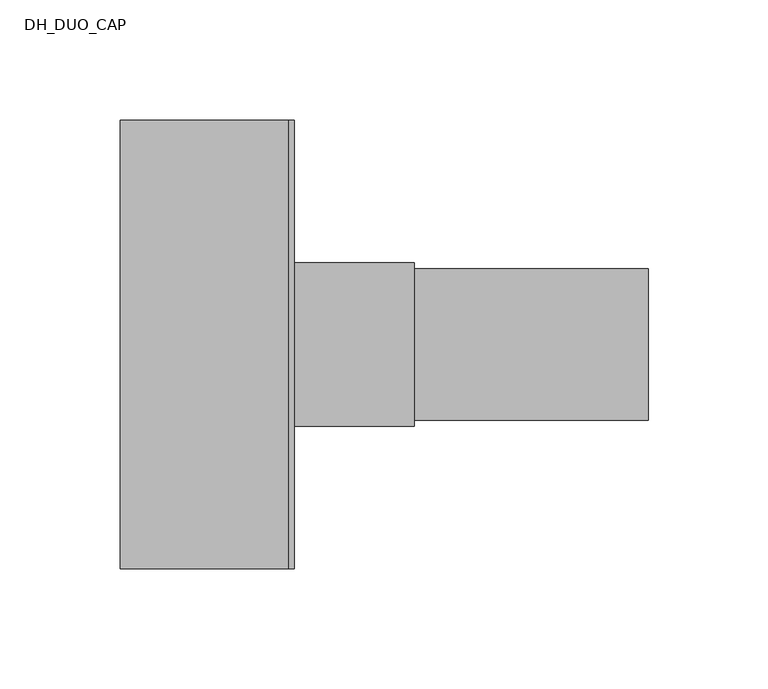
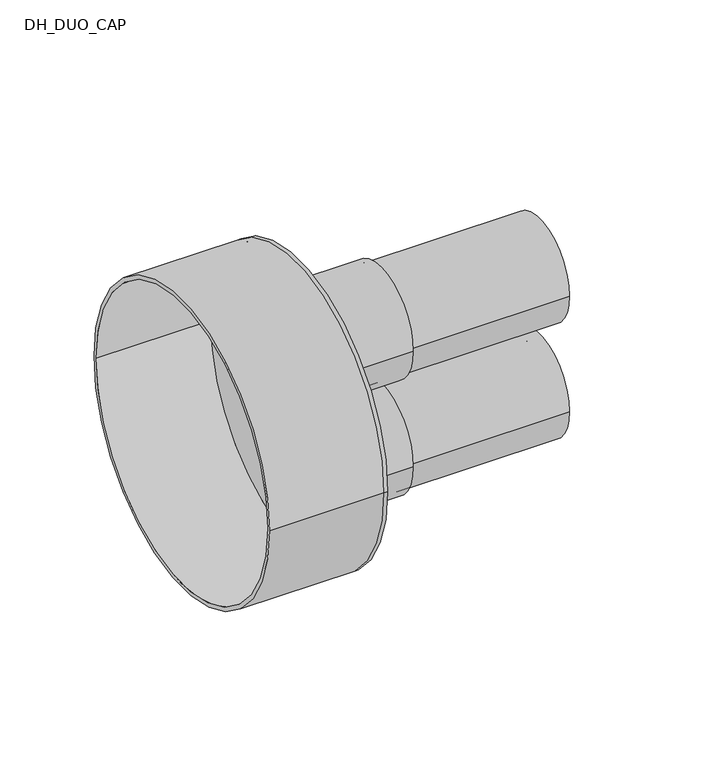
"""IFC4 building model written with IfcOpenShell, lengths in millimetres: pipe fitting geometry, DH_DUO_CAP : RAUTHERMEX DUO 7.4 Heating - Rubber Cap."""

from ifc_helpers import new_model, si_unit, point, frame, frame_2d, origin, place, context, project, spatial, polyline, circle_curve, trimmed, segment, composite_curve, outline, extrude, source, transform, mapped, element, save
from ifc_brep_helpers import plane_surface, cylinder_surface, revolved_surface, advanced_brep


def dh_duo_cap_04a83930(model_context):
    return source(origin(), model_context, "Body", "SolidModel", [
        extrude(outline(composite_curve([segment(trimmed(circle_curve(frame_2d((0.0, -37.5)), 31.5), [point((-31.5, -37.5))], [point((31.5, -37.5))], False, "CARTESIAN"), True, "CONTINUOUS"), segment(trimmed(circle_curve(frame_2d((0.0, -37.5)), 31.5), [point((31.5, -37.5))], [point((-31.5, -37.5))], False, "CARTESIAN"), True, "CONTINUOUS")], self_intersect=False), holes=[composite_curve([segment(trimmed(circle_curve(frame_2d((0.0, -37.5)), 22.9), [point((-22.9, -37.5))], [point((22.9, -37.5))], True, "CARTESIAN"), True, "CONTINUOUS"), segment(trimmed(circle_curve(frame_2d((0.0, -37.5)), 22.9), [point((22.9, -37.5))], [point((-22.9, -37.5))], True, "CARTESIAN"), True, "CONTINUOUS")], self_intersect=False)]), frame((0.0, 0.0, 0.0), z_axis=(1.0, 0.0, 0.0), x_axis=(0.0, 1.0, 0.0)), (0.0, 0.0, 1.0), 150.0),
        extrude(outline(composite_curve([segment(trimmed(circle_curve(frame_2d((0.0, 37.5)), 31.5), [point((-31.5, 37.5))], [point((31.5, 37.5))], False, "CARTESIAN"), True, "CONTINUOUS"), segment(trimmed(circle_curve(frame_2d((0.0, 37.5)), 31.5), [point((31.5, 37.5))], [point((-31.5, 37.5))], False, "CARTESIAN"), True, "CONTINUOUS")], self_intersect=False), holes=[composite_curve([segment(trimmed(circle_curve(frame_2d((0.0, 37.5)), 22.9), [point((-22.9, 37.5))], [point((22.9, 37.5))], True, "CARTESIAN"), True, "CONTINUOUS"), segment(trimmed(circle_curve(frame_2d((0.0, 37.5)), 22.9), [point((22.9, 37.5))], [point((-22.9, 37.5))], True, "CARTESIAN"), True, "CONTINUOUS")], self_intersect=False)]), frame((0.0, 0.0, 0.0), z_axis=(1.0, 0.0, 0.0), x_axis=(0.0, 1.0, 0.0)), (0.0, 0.0, 1.0), 150.0),
        advanced_brep(
        [(-70.0, -93.5, 0.0), (-70.0, 93.5, 0.0), (-70.0, -91.0, 0.0), (-70.0, 91.0, 0.0), (0.0, -91.0, 0.0), (0.0, 91.0, 0.0), (0.0, -93.5, 0.0), (0.0, 93.5, 0.0), (0.0, 31.5, 37.5), (0.0, -31.5, 37.5), (0.0, 31.5, -37.5), (0.0, -31.5, -37.5), (2.5, -93.5, 0.0), (2.5, 93.5, 0.0), (2.5, -31.5, 37.5), (2.5, 31.5, 37.5), (2.5, -31.5, -37.5), (2.5, 31.5, -37.5)],
        [
            (0, 1, circle_curve(frame((-70.0, 0.0, 0.0), z_axis=(-1.0, 0.0, 0.0), x_axis=(0.0, 1.0, 0.0)), 93.5)),
            (1, 0, circle_curve(frame((-70.0, 0.0, 0.0), z_axis=(-1.0, 0.0, 0.0), x_axis=(0.0, 1.0, 0.0)), 93.5)),
            (2, 3, circle_curve(frame((-70.0, 0.0, 0.0), z_axis=(1.0, 0.0, 0.0), x_axis=(0.0, 1.0, 0.0)), 91.0)),
            (3, 2, circle_curve(frame((-70.0, 0.0, 0.0), z_axis=(1.0, 0.0, 0.0), x_axis=(0.0, 1.0, 0.0)), 91.0)),
            (2, 4),
            (4, 5, circle_curve(frame((0.0, 0.0, 0.0), z_axis=(1.0, 0.0, 0.0), x_axis=(0.0, 1.0, 0.0)), 91.0)),
            (5, 3),
            (5, 4, circle_curve(frame((0.0, 0.0, 0.0), z_axis=(1.0, 0.0, 0.0), x_axis=(0.0, 1.0, 0.0)), 91.0)),
            (0, 6),
            (6, 7, circle_curve(frame((0.0, 0.0, 0.0), z_axis=(-1.0, 0.0, 0.0), x_axis=(0.0, 1.0, 0.0)), 93.5)),
            (7, 1),
            (7, 6, circle_curve(frame((0.0, 0.0, 0.0), z_axis=(-1.0, 0.0, 0.0), x_axis=(0.0, 1.0, 0.0)), 93.5)),
            (8, 9, circle_curve(frame((0.0, 0.0, 37.5), z_axis=(1.0, 0.0, 0.0), x_axis=(0.0, 1.0, 0.0)), 31.5)),
            (9, 8, circle_curve(frame((0.0, 0.0, 37.5), z_axis=(1.0, 0.0, 0.0), x_axis=(0.0, 1.0, 0.0)), 31.5)),
            (10, 11, circle_curve(frame((0.0, 0.0, -37.5), z_axis=(1.0, 0.0, 0.0), x_axis=(0.0, 1.0, 0.0)), 31.5)),
            (11, 10, circle_curve(frame((0.0, 0.0, -37.5), z_axis=(1.0, 0.0, 0.0), x_axis=(0.0, 1.0, 0.0)), 31.5)),
            (12, 13, circle_curve(frame((2.5, 0.0, 0.0), z_axis=(1.0, 0.0, 0.0), x_axis=(0.0, 1.0, 0.0)), 93.5)),
            (13, 12, circle_curve(frame((2.5, 0.0, 0.0), z_axis=(1.0, 0.0, 0.0), x_axis=(0.0, 1.0, 0.0)), 93.5)),
            (14, 15, circle_curve(frame((2.5, 0.0, 37.5), z_axis=(-1.0, 0.0, 0.0), x_axis=(0.0, 1.0, 0.0)), 31.5)),
            (15, 14, circle_curve(frame((2.5, 0.0, 37.5), z_axis=(-1.0, 0.0, 0.0), x_axis=(0.0, 1.0, 0.0)), 31.5)),
            (16, 17, circle_curve(frame((2.5, 0.0, -37.5), z_axis=(-1.0, 0.0, 0.0), x_axis=(0.0, 1.0, 0.0)), 31.5)),
            (17, 16, circle_curve(frame((2.5, 0.0, -37.5), z_axis=(-1.0, 0.0, 0.0), x_axis=(0.0, 1.0, 0.0)), 31.5)),
            (13, 7),
            (6, 12),
            (8, 15),
            (14, 9),
            (10, 17),
            (16, 11),
        ],
        [
            plane_surface(frame((-70.0, 0.0, 0.0), z_axis=(-1.0, 0.0, 0.0), x_axis=(0.0, 0.0, 1.0))),
            revolved_surface(polyline([(0.0, 91.0, 0.0), (-70.0, 91.0, 0.0)]), (-70.0, 0.0, 0.0), (1.0, 0.0, 0.0)),
            cylinder_surface(frame((-70.0, 0.0, 0.0), z_axis=(-1.0, 0.0, 0.0), x_axis=(0.0, 1.0, 0.0)), 93.5),
            plane_surface(frame((0.0, 0.0, 0.0), z_axis=(-1.0, 0.0, 0.0), x_axis=(0.0, 0.0, 1.0))),
            plane_surface(frame((2.5, 0.0, 0.0), z_axis=(1.0, 0.0, 0.0), x_axis=(0.0, 0.0, 1.0))),
            cylinder_surface(frame((0.0, 0.0, 0.0), z_axis=(-1.0, 0.0, 0.0), x_axis=(0.0, 1.0, 0.0)), 93.5),
            revolved_surface(polyline([(0.0, 31.5, 37.5), (2.5, 31.5, 37.5)]), (0.0, 0.0, 37.5), (-1.0, 0.0, 0.0)),
            revolved_surface(polyline([(0.0, 31.5, -37.5), (2.5, 31.5, -37.5)]), (0.0, 0.0, -37.5), (-1.0, 0.0, 0.0)),
        ],
        [
            (0, [[1, 2], [3, 4]]),
            (1, [[-3, 5, 6, 7]]),
            (1, [[-4, -7, 8, -5]]),
            (2, [[-1, 9, 10, 11]]),
            (2, [[-2, -11, 12, -9]]),
            (3, [[-6, -8], [13, 14], [15, 16]]),
            (4, [[17, 18], [19, 20], [21, 22]]),
            (5, [[-18, 23, -10, 24]]),
            (5, [[-17, -24, -12, -23]]),
            (6, [[25, -19, 26, -13]]),
            (6, [[-25, -14, -26, -20]]),
            (7, [[27, -21, 28, -15]]),
            (7, [[-27, -16, -28, -22]]),
        ],
    ),
        extrude(outline(composite_curve([segment(trimmed(circle_curve(frame_2d((0.0, -37.5)), 34.0), [point((-34.0, -37.5))], [point((34.0, -37.5))], False, "CARTESIAN"), True, "CONTINUOUS"), segment(trimmed(circle_curve(frame_2d((0.0, -37.5)), 34.0), [point((34.0, -37.5))], [point((-34.0, -37.5))], False, "CARTESIAN"), True, "CONTINUOUS")], self_intersect=False), holes=[composite_curve([segment(trimmed(circle_curve(frame_2d((0.0, -37.5)), 31.5), [point((-31.5, -37.5))], [point((31.5, -37.5))], True, "CARTESIAN"), True, "CONTINUOUS"), segment(trimmed(circle_curve(frame_2d((0.0, -37.5)), 31.5), [point((31.5, -37.5))], [point((-31.5, -37.5))], True, "CARTESIAN"), True, "CONTINUOUS")], self_intersect=False)]), frame((2.5, 0.0, 0.0), z_axis=(1.0, 0.0, 0.0), x_axis=(0.0, 1.0, 0.0)), (0.0, 0.0, 1.0), 50.0),
        extrude(outline(composite_curve([segment(trimmed(circle_curve(frame_2d((0.0, 37.5)), 34.0), [point((-34.0, 37.5))], [point((34.0, 37.5))], False, "CARTESIAN"), True, "CONTINUOUS"), segment(trimmed(circle_curve(frame_2d((0.0, 37.5)), 34.0), [point((34.0, 37.5))], [point((-34.0, 37.5))], False, "CARTESIAN"), True, "CONTINUOUS")], self_intersect=False), holes=[composite_curve([segment(trimmed(circle_curve(frame_2d((0.0, 37.5)), 31.5), [point((-31.5, 37.5))], [point((31.5, 37.5))], True, "CARTESIAN"), True, "CONTINUOUS"), segment(trimmed(circle_curve(frame_2d((0.0, 37.5)), 31.5), [point((31.5, 37.5))], [point((-31.5, 37.5))], True, "CARTESIAN"), True, "CONTINUOUS")], self_intersect=False)]), frame((2.5, 0.0, 0.0), z_axis=(1.0, 0.0, 0.0), x_axis=(0.0, 1.0, 0.0)), (0.0, 0.0, 1.0), 50.0),
    ])


if __name__ == "__main__":
    model = new_model("IFC4")
    model_context = context("Model", 3, world=origin())
    ifc_project = project(units=[si_unit("LENGTHUNIT", "METRE", prefix="MILLI")], contexts=[model_context])
    site = spatial("IfcSite", under=ifc_project)
    building = spatial("IfcBuilding", under=site)
    placement = place(None, origin())
    dh_duo_cap_shape = dh_duo_cap_04a83930(model_context)
    element("IfcPipeFitting", 1, ObjectType="DH_DUO_CAP : RAUTHERMEX DUO 7.4 Heating - Rubber Cap", at=placement, inside=building, context=model_context, shape_type="MappedRepresentation", body=[
        mapped(dh_duo_cap_shape, transform((0.0, 0.0, 0.0), x_axis=(1.0, 0.0, 0.0), y_axis=(0.0, 1.0, 0.0), z_axis=(0.0, 0.0, 1.0))),
    ])
    save(model, "model.ifc")
